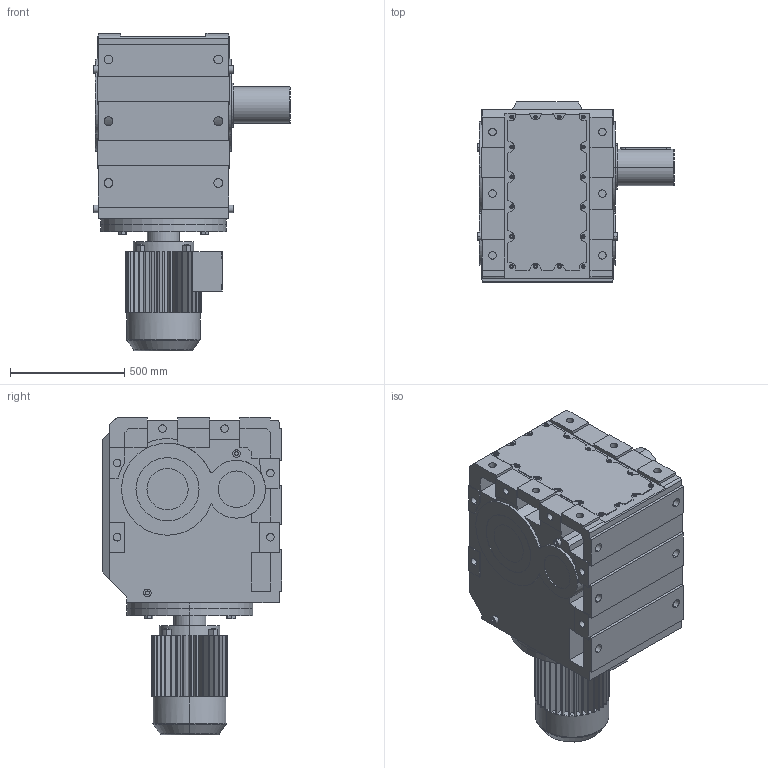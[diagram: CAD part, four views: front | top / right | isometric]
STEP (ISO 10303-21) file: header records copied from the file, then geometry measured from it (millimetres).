
FILE_DESCRIPTION(('Open CASCADE Model'),'2;1');
FILE_NAME('Open CASCADE Shape Model','2021-05-14T09:25:05',('Author'),( 'Open CASCADE'),'Open CASCADE STEP processor 6.3','Open CASCADE 6.3' ,'Unknown');
FILE_SCHEMA(('AUTOMOTIVE_DESIGN_CC2 { 1 2 10303 214 -1 1 5 4 }'));
Length unit declared in the file: millimetre
Products named in the file (4): 1_K167DV180-A; K167‵187_167.step; 萇儂_550-DV180-552-708-331-258.step; す瑩妗陑粣K_167.step
Assembly tree (3 placements, depth 2):
  1_K167DV180-A
    K167‵187_167.step
    萇儂_550-DV180-552-708-331-258.step
    す瑩妗陑粣K_167.step
Bounding box: 860 x 786 x 1389 mm (x, y, z)
Volume: 390304559.3 mm3; surface area: 6371285 mm2
Topology: 3 solids, 3 shells, 917 faces, 2376 edges, 1546 vertices
Faces by surface type: plane 617, cylinder 288, cone 8, torus 4
Entity records: 59552 total; most frequent: CARTESIAN_POINT 14038, DIRECTION 7944, ORIENTED_EDGE 4748, PCURVE 4748, DEFINITIONAL_REPRESENTATION 4748, LINE 4231, VECTOR 4231, EDGE_CURVE 2374
